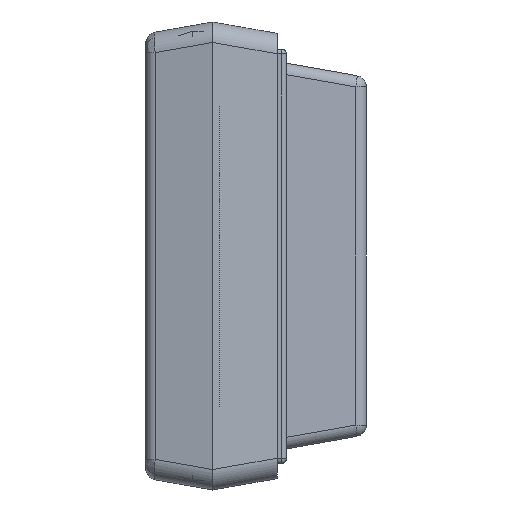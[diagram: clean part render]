
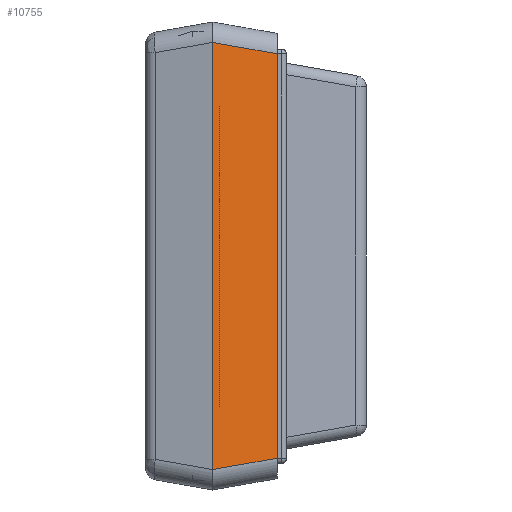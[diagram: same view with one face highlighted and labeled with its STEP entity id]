
A CAD part, left-side view. The second image highlights one B-rep face of the part: STEP entity #10755.
In plain terms, the highlighted planar face has unit normal (-0.985, -0.174, 0).
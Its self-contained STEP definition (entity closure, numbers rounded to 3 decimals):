
#227 = VERTEX_POINT ( 'NONE', #3748 ) ;
#586 = EDGE_CURVE ( 'NONE', #10086, #227, #7675, .T. ) ;
#722 = LINE ( 'NONE', #6268, #1066 ) ;
#727 = VECTOR ( 'NONE', #2523, 1000. ) ;
#1066 = VECTOR ( 'NONE', #13762, 1000. ) ;
#1137 = EDGE_CURVE ( 'NONE', #8165, #227, #10560, .T. ) ;
#1225 = EDGE_CURVE ( 'NONE', #10086, #10974, #6717, .T. ) ;
#1302 = ORIENTED_EDGE ( 'NONE', *, *, #1137, .T. ) ;
#1920 = DIRECTION ( 'NONE',  ( 0.174, -0.985, 0. ) ) ;
#2262 = DIRECTION ( 'NONE',  ( -0.171, 0.97, 0.171 ) ) ;
#2398 = CARTESIAN_POINT ( 'NONE',  ( -95.43, 0.736, 46.398 ) ) ;
#2523 = DIRECTION ( 'NONE',  ( 0.171, -0.97, 0.171 ) ) ;
#3748 = CARTESIAN_POINT ( 'NONE',  ( -95.3, 0., 46.268 ) ) ;
#4467 = CARTESIAN_POINT ( 'NONE',  ( -95.3, 0., 50.7 ) ) ;
#5254 = AXIS2_PLACEMENT_3D ( 'NONE', #7207, #8281, #1920 ) ;
#5822 = VECTOR ( 'NONE', #11930, 1000. ) ;
#6268 = CARTESIAN_POINT ( 'NONE',  ( -92.831, -14., 50.7 ) ) ;
#6717 = LINE ( 'NONE', #12871, #727 ) ;
#7207 = CARTESIAN_POINT ( 'NONE',  ( -95.3, 0., 50.7 ) ) ;
#7314 = EDGE_CURVE ( 'NONE', #10974, #8165, #722, .T. ) ;
#7587 = CARTESIAN_POINT ( 'NONE',  ( -92.831, -14., -43.8 ) ) ;
#7675 = LINE ( 'NONE', #4467, #5822 ) ;
#7725 = FACE_OUTER_BOUND ( 'NONE', #13649, .T. ) ;
#8165 = VERTEX_POINT ( 'NONE', #8920 ) ;
#8281 = DIRECTION ( 'NONE',  ( -0.985, -0.174, 0. ) ) ;
#8678 = ORIENTED_EDGE ( 'NONE', *, *, #1225, .T. ) ;
#8920 = CARTESIAN_POINT ( 'NONE',  ( -92.831, -14., 43.8 ) ) ;
#10086 = VERTEX_POINT ( 'NONE', #10480 ) ;
#10480 = CARTESIAN_POINT ( 'NONE',  ( -95.3, 0., -46.268 ) ) ;
#10560 = LINE ( 'NONE', #2398, #12744 ) ;
#10755 = ADVANCED_FACE ( 'NONE', ( #7725 ), #12540, .T. ) ;
#10974 = VERTEX_POINT ( 'NONE', #7587 ) ;
#11480 = ORIENTED_EDGE ( 'NONE', *, *, #7314, .T. ) ;
#11930 = DIRECTION ( 'NONE',  ( 0., 0., 1. ) ) ;
#12540 = PLANE ( 'NONE',  #5254 ) ;
#12696 = ORIENTED_EDGE ( 'NONE', *, *, #586, .F. ) ;
#12744 = VECTOR ( 'NONE', #2262, 1000. ) ;
#12871 = CARTESIAN_POINT ( 'NONE',  ( -92.462, -16.097, -43.43 ) ) ;
#13649 = EDGE_LOOP ( 'NONE', ( #12696, #8678, #11480, #1302 ) ) ;
#13762 = DIRECTION ( 'NONE',  ( 0., 0., 1. ) ) ;
